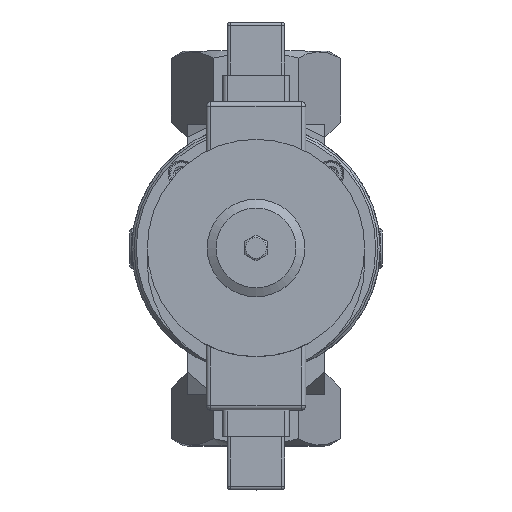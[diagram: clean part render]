
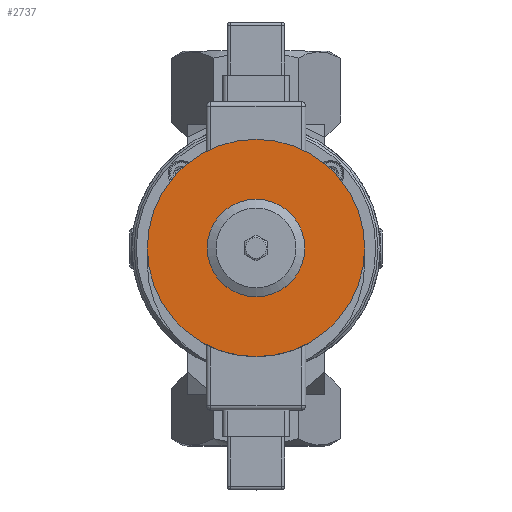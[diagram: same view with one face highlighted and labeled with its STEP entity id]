
A CAD part, top view. The second image highlights one B-rep face of the part: STEP entity #2737.
In plain terms, the highlighted planar face has unit normal (0, 0, 1).
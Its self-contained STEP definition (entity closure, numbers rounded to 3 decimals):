
#2737 = ADVANCED_FACE( '', ( #4337, #4338 ), #4339, .F. );
#4337 = FACE_BOUND( '', #6672, .T. );
#4338 = FACE_OUTER_BOUND( '', #6673, .T. );
#4339 = PLANE( '', #6674 );
#6672 = EDGE_LOOP( '', ( #10631 ) );
#6673 = EDGE_LOOP( '', ( #10632 ) );
#6674 = AXIS2_PLACEMENT_3D( '', #10633, #10634, #10635 );
#10631 = ORIENTED_EDGE( '', *, *, #11595, .T. );
#10632 = ORIENTED_EDGE( '', *, *, #11578, .F. );
#10633 = CARTESIAN_POINT( '', ( 0., -7., 80. ) );
#10634 = DIRECTION( '', ( 0., 0., -1. ) );
#10635 = DIRECTION( '', ( -1., 0., 0. ) );
#11578 = EDGE_CURVE( '', #13347, #13347, #13348, .T. );
#11595 = EDGE_CURVE( '', #13376, #13376, #13377, .T. );
#13347 = VERTEX_POINT( '', #16912 );
#13348 = CIRCLE( '', #16913, 49. );
#13376 = VERTEX_POINT( '', #17001 );
#13377 = CIRCLE( '', #17002, 20. );
#16912 = CARTESIAN_POINT( '', ( 0., 42., 80. ) );
#16913 = AXIS2_PLACEMENT_3D( '', #18926, #18927, #18928 );
#17001 = CARTESIAN_POINT( '', ( 0., 13., 80. ) );
#17002 = AXIS2_PLACEMENT_3D( '', #18953, #18954, #18955 );
#18926 = CARTESIAN_POINT( '', ( 0., -7., 80. ) );
#18927 = DIRECTION( '', ( 0., 0., -1. ) );
#18928 = DIRECTION( '', ( 0., 1., 0. ) );
#18953 = CARTESIAN_POINT( '', ( 0., -7., 80. ) );
#18954 = DIRECTION( '', ( 0., 0., -1. ) );
#18955 = DIRECTION( '', ( 0., 1., 0. ) );
